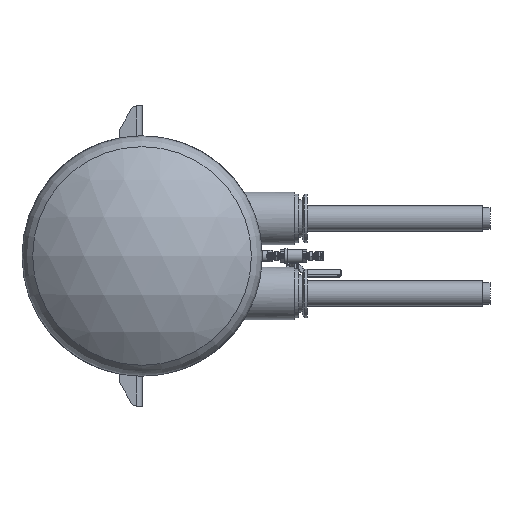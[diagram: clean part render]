
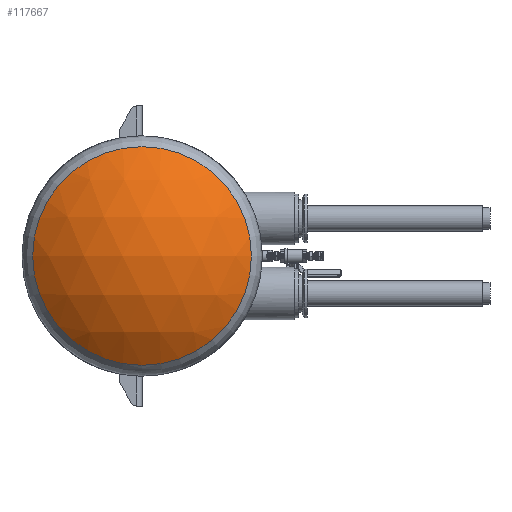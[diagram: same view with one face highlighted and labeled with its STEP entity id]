
A CAD part, left-side view. The second image highlights one B-rep face of the part: STEP entity #117667.
In plain terms, the highlighted spherical face has radius 287.38 mm.
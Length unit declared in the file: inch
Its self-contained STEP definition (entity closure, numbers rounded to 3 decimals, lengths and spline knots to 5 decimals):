
#779 = AXIS2_PLACEMENT_3D ( 'NONE', #137432, #113358, #97968 ) ;
#1289 = DIRECTION ( 'NONE',  ( 0., 1., 0. ) ) ;
#3834 = SPHERICAL_SURFACE ( 'NONE', #160944, 11.31418 ) ;
#6318 = CIRCLE ( 'NONE', #779, 7.28836 ) ;
#28888 = EDGE_LOOP ( 'NONE', ( #105473 ) ) ;
#45613 = DIRECTION ( 'NONE',  ( 0., 0., 1. ) ) ;
#97968 = DIRECTION ( 'NONE',  ( 0., 0., -1. ) ) ;
#101309 = EDGE_CURVE ( 'NONE', #165462, #165462, #6318, .T. ) ;
#105473 = ORIENTED_EDGE ( 'NONE', *, *, #101309, .F. ) ;
#113358 = DIRECTION ( 'NONE',  ( 1., 0., 0. ) ) ;
#117667 = ADVANCED_FACE ( 'NONE', ( #147123 ), #3834, .T. ) ;
#137432 = CARTESIAN_POINT ( 'NONE',  ( -23.83975, 0., 0. ) ) ;
#139751 = CARTESIAN_POINT ( 'NONE',  ( -23.83975, 0., -7.28836 ) ) ;
#147123 = FACE_OUTER_BOUND ( 'NONE', #28888, .T. ) ;
#160944 = AXIS2_PLACEMENT_3D ( 'NONE', #163133, #45613, #1289 ) ;
#163133 = CARTESIAN_POINT ( 'NONE',  ( -15.18582, 0., 0. ) ) ;
#165462 = VERTEX_POINT ( 'NONE', #139751 ) ;
